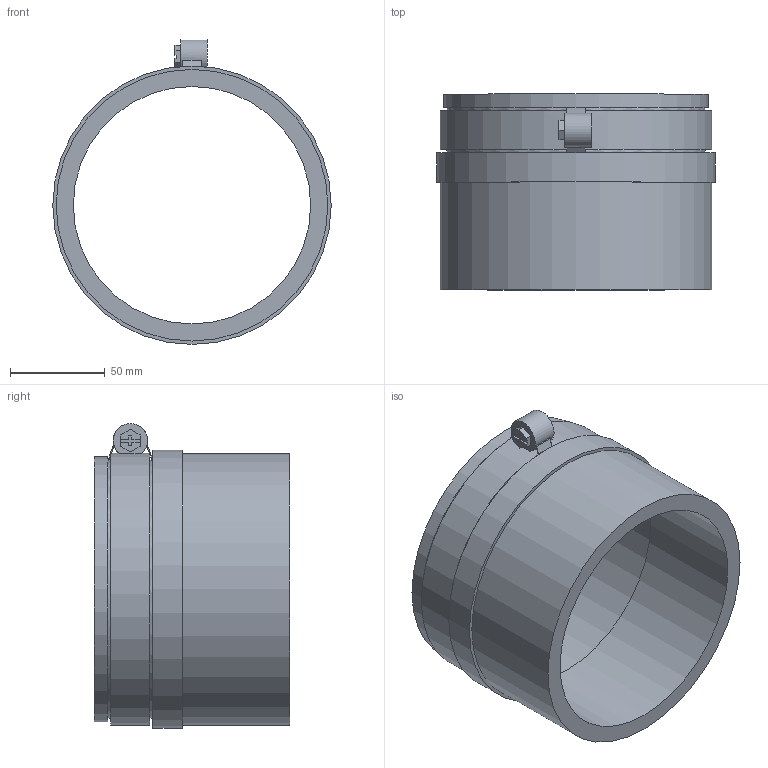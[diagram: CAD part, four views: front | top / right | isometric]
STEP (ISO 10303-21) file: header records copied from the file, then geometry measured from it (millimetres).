
FILE_DESCRIPTION( ( 'STEP AP214' ), '1' );
FILE_NAME( 'C:/Users/ilukic/Documents/ex/gebaudeentwasserung/silent_pp/Geberit SilentPP adapter sleeve to cast iron/390695.stp', '2020-03-26T18:44:41', ( '' ), ( '' ), ' ', 'PARTsolutions', ' ' );
FILE_SCHEMA( ( 'AUTOMOTIVE_DESIGN { 1 0 10303 214 1 1 1 1 }' ) );
Length unit declared in the file: millimetre
Products named in the file (1): _390695
Bounding box: 146.57 x 103 x 160.49 mm (x, y, z)
Volume: 350500.9 mm3; surface area: 102707.7 mm2
Topology: 1 solids, 1 shells, 53 faces, 144 edges, 95 vertices
Faces by surface type: plane 43, cylinder 10
Full cylindrical faces by diameter (mm): 125 x1, 130 x1, 135.85 x2, 139.425 x1, 143 x2, 146.575 x1
Entity records: 2028 total; most frequent: CARTESIAN_POINT 291, DIRECTION 262, ORIENTED_EDGE 260, EDGE_CURVE 130, LINE 100, VECTOR 100, VERTEX_POINT 90, AXIS2_PLACEMENT_3D 81
